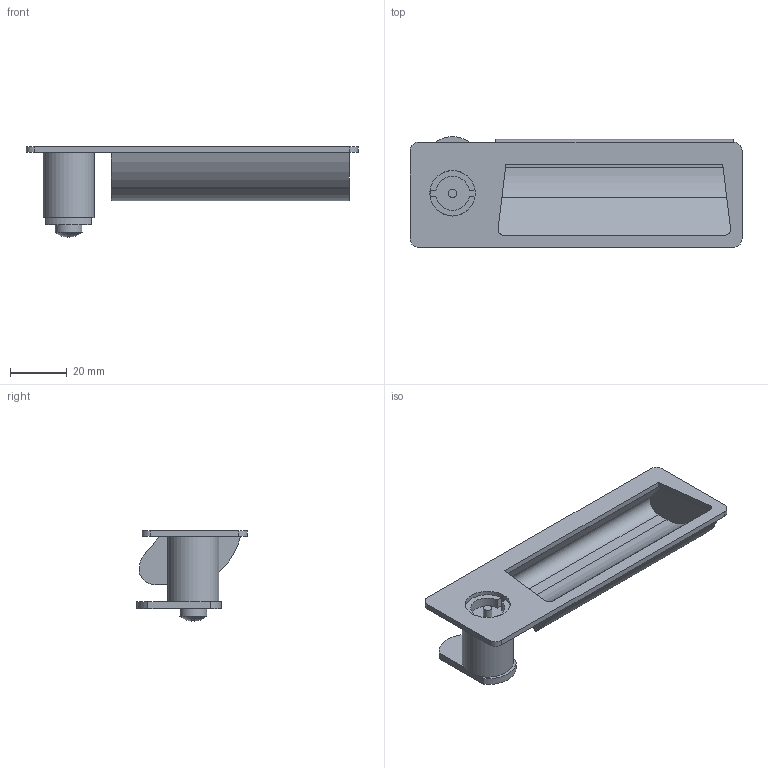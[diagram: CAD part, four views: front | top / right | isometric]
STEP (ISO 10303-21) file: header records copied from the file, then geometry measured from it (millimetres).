
FILE_DESCRIPTION( ( 'STEP AP203' ), '1' );
FILE_NAME( 'C:/Temp/Ganter_Step_05_03_2020/data/3_3/gn731_5/gn731_5_1/Latche with gripping tray GN 731.5-VDE-0-20-1-SG (0-23).stp', '2020-03-12T11:49:23', ( 'License CC BY-ND 4.0' ), ( 'CADENAS' ), ' ', 'PARTsolutions', ' ' );
FILE_SCHEMA( ( 'CONFIG_CONTROL_DESIGN' ) );
Length unit declared in the file: millimetre
Products named in the file (3): Latche with gripping tray GN 731.5-VDE-0-20-1-SG (0-23); _Latche with gripping tray GN 731.5-VDE-0-20-1-SG (0)_1; _Latche with gripping tray GN 731.5-VDE-0-20-1-SG (0-23)_2
Assembly tree (2 placements, depth 2):
  Latche with gripping tray GN 731.5-VDE-0-20-1-SG (0-23)
    _Latche with gripping tray GN 731.5-VDE-0-20-1-SG (0)_1
    _Latche with gripping tray GN 731.5-VDE-0-20-1-SG (0-23)_2
Bounding box: 117 x 38.96 x 31.88 mm (x, y, z)
Volume: 23423.2 mm3; surface area: 19424.3 mm2
Topology: 2 solids, 2 shells, 90 faces, 230 edges, 150 vertices
Faces by surface type: plane 66, cylinder 23, sphere 1
Full cylindrical faces by diameter (mm): 3 x1, 9.5 x1, 16 x1, 18 x1
Entity records: 2775 total; most frequent: DIRECTION 477, CARTESIAN_POINT 460, ORIENTED_EDGE 442, EDGE_CURVE 221, AXIS2_PLACEMENT_3D 163, LINE 151, VECTOR 151, VERTEX_POINT 146
